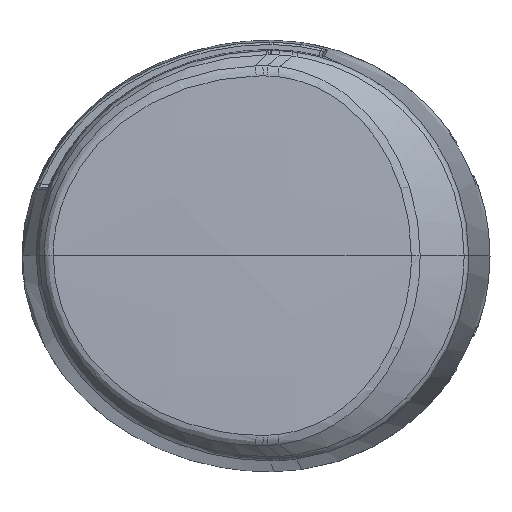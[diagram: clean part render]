
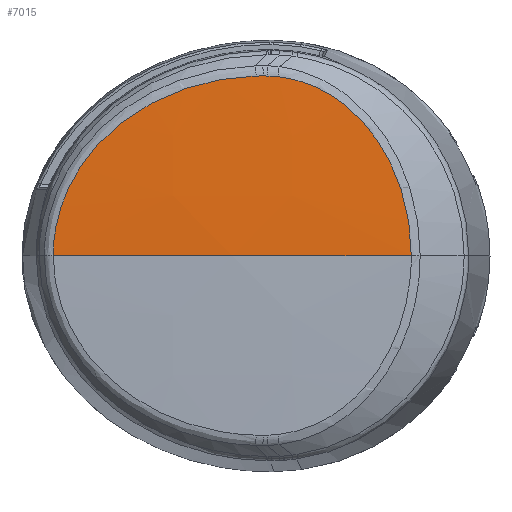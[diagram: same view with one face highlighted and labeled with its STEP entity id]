
A CAD part, top view. The second image highlights one B-rep face of the part: STEP entity #7015.
In plain terms, the highlighted free-form (B-spline) face has degree [3, 3] with [4, 4] control points.
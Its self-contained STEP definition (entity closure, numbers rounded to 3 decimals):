
#6664=CARTESIAN_POINT('Control Point',(14.244,0.,29.151)) ;
#6665=CARTESIAN_POINT('Control Point',(14.244,0.01,29.151)) ;
#6666=CARTESIAN_POINT('Control Point',(14.244,0.02,29.151)) ;
#6667=CARTESIAN_POINT('Control Point',(14.244,0.03,29.151)) ;
#6668=CARTESIAN_POINT('Control Point',(14.241,2.425,29.151)) ;
#6669=CARTESIAN_POINT('Control Point',(14.001,4.819,29.166)) ;
#6670=CARTESIAN_POINT('Control Point',(13.529,7.171,29.196)) ;
#6671=CARTESIAN_POINT('Control Point',(12.416,10.75,29.268)) ;
#6672=CARTESIAN_POINT('Control Point',(10.727,14.047,29.377)) ;
#6673=CARTESIAN_POINT('Control Point',(10.041,15.195,29.421)) ;
#6674=CARTESIAN_POINT('Control Point',(8.57,17.312,29.516)) ;
#6675=CARTESIAN_POINT('Control Point',(6.835,19.186,29.628)) ;
#6676=CARTESIAN_POINT('Control Point',(5.936,20.027,29.686)) ;
#6677=CARTESIAN_POINT('Control Point',(4.074,21.523,29.807)) ;
#6678=CARTESIAN_POINT('Control Point',(2.024,22.702,29.941)) ;
#6679=CARTESIAN_POINT('Control Point',(0.984,23.195,30.008)) ;
#6680=CARTESIAN_POINT('Control Point',(-0.548,23.773,30.109)) ;
#6681=CARTESIAN_POINT('Control Point',(-2.138,24.162,30.213)) ;
#6682=CARTESIAN_POINT('Control Point',(-2.62,24.262,30.244)) ;
#6683=CARTESIAN_POINT('Control Point',(-3.14,24.35,30.278)) ;
#6684=CARTESIAN_POINT('Control Point',(-3.664,24.417,30.313)) ;
#6685=CARTESIAN_POINT('Control Point',(-3.699,24.421,30.315)) ;
#6686=CARTESIAN_POINT('Control Point',(-3.766,24.429,30.319)) ;
#6687=CARTESIAN_POINT('Control Point',(-3.832,24.437,30.324)) ;
#6688=CARTESIAN_POINT('Control Point',(-3.881,24.443,30.327)) ;
#6689=CARTESIAN_POINT('Control Point',(-3.912,24.446,30.329)) ;
#6690=CARTESIAN_POINT('Control Point',(-3.944,24.45,30.331)) ;
#6691=CARTESIAN_POINT('Vertex',(-3.944,24.45,30.331)) ;
#6693=CARTESIAN_POINT('Vertex',(14.244,0.,29.151)) ;
#6805=CARTESIAN_POINT('Control Point',(-3.944,24.45,30.331)) ;
#6806=CARTESIAN_POINT('Control Point',(-3.946,24.45,30.331)) ;
#6807=CARTESIAN_POINT('Control Point',(-3.948,24.45,30.331)) ;
#6808=CARTESIAN_POINT('Control Point',(-3.949,24.45,30.332)) ;
#6809=CARTESIAN_POINT('Control Point',(-4.225,24.481,30.35)) ;
#6810=CARTESIAN_POINT('Control Point',(-4.502,24.505,30.368)) ;
#6811=CARTESIAN_POINT('Control Point',(-4.779,24.524,30.386)) ;
#6812=CARTESIAN_POINT('Control Point',(-5.06,24.538,30.404)) ;
#6813=CARTESIAN_POINT('Control Point',(-5.342,24.546,30.423)) ;
#6814=CARTESIAN_POINT('Control Point',(-5.346,24.546,30.423)) ;
#6815=CARTESIAN_POINT('Control Point',(-5.35,24.547,30.423)) ;
#6816=CARTESIAN_POINT('Control Point',(-5.355,24.547,30.424)) ;
#6817=CARTESIAN_POINT('Vertex',(-5.355,24.547,30.424)) ;
#6941=CARTESIAN_POINT('Control Point',(14.244,0.,29.151)) ;
#6942=CARTESIAN_POINT('Control Point',(-2.025,0.,30.76)) ;
#6943=CARTESIAN_POINT('Control Point',(-18.369,0.,31.713)) ;
#6944=CARTESIAN_POINT('Control Point',(-34.708,0.,32.004)) ;
#6945=CARTESIAN_POINT('Control Point',(14.244,8.171,29.151)) ;
#6946=CARTESIAN_POINT('Control Point',(-2.025,8.187,30.76)) ;
#6947=CARTESIAN_POINT('Control Point',(-18.369,8.195,31.713)) ;
#6948=CARTESIAN_POINT('Control Point',(-34.708,8.198,32.004)) ;
#6949=CARTESIAN_POINT('Control Point',(14.244,16.343,29.036)) ;
#6950=CARTESIAN_POINT('Control Point',(-2.025,16.373,30.645)) ;
#6951=CARTESIAN_POINT('Control Point',(-18.369,16.391,31.597)) ;
#6952=CARTESIAN_POINT('Control Point',(-34.708,16.396,31.888)) ;
#6953=CARTESIAN_POINT('Control Point',(14.244,24.511,28.805)) ;
#6954=CARTESIAN_POINT('Control Point',(-2.025,24.557,30.414)) ;
#6955=CARTESIAN_POINT('Control Point',(-18.369,24.583,31.366)) ;
#6956=CARTESIAN_POINT('Control Point',(-34.708,24.592,31.656)) ;
#6958=CARTESIAN_POINT('Control Point',(-6.011,24.558,30.467)) ;
#6959=CARTESIAN_POINT('Control Point',(-5.792,24.557,30.452)) ;
#6960=CARTESIAN_POINT('Control Point',(-5.574,24.553,30.438)) ;
#6961=CARTESIAN_POINT('Control Point',(-5.355,24.547,30.424)) ;
#6962=CARTESIAN_POINT('Vertex',(-6.011,24.558,30.467)) ;
#6966=CARTESIAN_POINT('Control Point',(-6.011,24.558,30.467)) ;
#6967=CARTESIAN_POINT('Control Point',(-6.332,24.56,30.487)) ;
#6968=CARTESIAN_POINT('Control Point',(-6.654,24.557,30.508)) ;
#6969=CARTESIAN_POINT('Control Point',(-6.974,24.548,30.529)) ;
#6970=CARTESIAN_POINT('Vertex',(-6.974,24.548,30.529)) ;
#6974=CARTESIAN_POINT('Control Point',(-6.974,24.548,30.529)) ;
#6975=CARTESIAN_POINT('Control Point',(-7.355,24.538,30.553)) ;
#6976=CARTESIAN_POINT('Control Point',(-7.735,24.523,30.578)) ;
#6977=CARTESIAN_POINT('Control Point',(-8.116,24.502,30.602)) ;
#6978=CARTESIAN_POINT('Control Point',(-9.446,24.41,30.686)) ;
#6979=CARTESIAN_POINT('Control Point',(-10.773,24.252,30.768)) ;
#6980=CARTESIAN_POINT('Control Point',(-11.718,24.104,30.826)) ;
#6981=CARTESIAN_POINT('Control Point',(-13.975,23.667,30.961)) ;
#6982=CARTESIAN_POINT('Control Point',(-16.197,23.029,31.089)) ;
#6983=CARTESIAN_POINT('Control Point',(-17.475,22.587,31.161)) ;
#6984=CARTESIAN_POINT('Control Point',(-20.078,21.526,31.304)) ;
#6985=CARTESIAN_POINT('Control Point',(-22.546,20.168,31.434)) ;
#6986=CARTESIAN_POINT('Control Point',(-23.781,19.385,31.497)) ;
#6987=CARTESIAN_POINT('Control Point',(-26.49,17.41,31.633)) ;
#6988=CARTESIAN_POINT('Control Point',(-28.858,15.048,31.745)) ;
#6989=CARTESIAN_POINT('Control Point',(-30.064,13.602,31.801)) ;
#6990=CARTESIAN_POINT('Control Point',(-31.992,10.774,31.887)) ;
#6991=CARTESIAN_POINT('Control Point',(-33.353,7.699,31.946)) ;
#6992=CARTESIAN_POINT('Control Point',(-33.845,6.266,31.967)) ;
#6993=CARTESIAN_POINT('Control Point',(-34.373,4.149,31.99)) ;
#6994=CARTESIAN_POINT('Control Point',(-34.629,2.007,32.)) ;
#6995=CARTESIAN_POINT('Control Point',(-34.682,1.336,32.003)) ;
#6996=CARTESIAN_POINT('Control Point',(-34.708,0.669,32.004)) ;
#6997=CARTESIAN_POINT('Control Point',(-34.708,0.,32.004)) ;
#6998=CARTESIAN_POINT('Vertex',(-34.708,0.,32.004)) ;
#7002=CARTESIAN_POINT('Control Point',(14.244,0.,29.151)) ;
#7003=CARTESIAN_POINT('Control Point',(-2.026,0.,30.761)) ;
#7004=CARTESIAN_POINT('Control Point',(-18.365,0.,31.713)) ;
#7005=CARTESIAN_POINT('Control Point',(-34.708,0.,32.004)) ;
#7008=ORIENTED_EDGE('',*,*,#6695,.F.) ;
#7009=ORIENTED_EDGE('',*,*,#6819,.F.) ;
#7010=ORIENTED_EDGE('',*,*,#6964,.F.) ;
#7011=ORIENTED_EDGE('',*,*,#6972,.F.) ;
#7012=ORIENTED_EDGE('',*,*,#7000,.F.) ;
#7013=ORIENTED_EDGE('',*,*,#7006,.F.) ;
#7015=ADVANCED_FACE('Body.COVER STBD',(#7014),#6940,.T.) ;
#6663=B_SPLINE_CURVE_WITH_KNOTS('',5,(#6664,#6665,#6666,#6667,#6668,#6669,#6670,#6671,#6672,#6673,#6674,#6675,#6676,#6677,#6678,#6679,#6680,#6681,#6682,#6683,#6684,#6685,#6686,#6687,#6688,#6689,#6690),.UNSPECIFIED.,.F.,.U.,(6,3,3,3,3,3,3,3,6),(54.399,54.488,75.754,87.816,99.118,109.885,114.496,114.826,115.124),.UNSPECIFIED.) ;
#6804=B_SPLINE_CURVE_WITH_KNOTS('',5,(#6805,#6806,#6807,#6808,#6809,#6810,#6811,#6812,#6813,#6814,#6815,#6816),.UNSPECIFIED.,.F.,.U.,(6,3,3,6),(48.937,48.953,51.52,51.561),.UNSPECIFIED.) ;
#6957=B_SPLINE_CURVE_WITH_KNOTS('',3,(#6958,#6959,#6960,#6961),.UNSPECIFIED.,.F.,.U.,(4,4),(0.,1.183),.UNSPECIFIED.) ;
#6965=B_SPLINE_CURVE_WITH_KNOTS('',3,(#6966,#6967,#6968,#6969),.UNSPECIFIED.,.F.,.U.,(4,4),(0.,1.74),.UNSPECIFIED.) ;
#6973=B_SPLINE_CURVE_WITH_KNOTS('',5,(#6974,#6975,#6976,#6977,#6978,#6979,#6980,#6981,#6982,#6983,#6984,#6985,#6986,#6987,#6988,#6989,#6990,#6991,#6992,#6993,#6994,#6995,#6996,#6997),.UNSPECIFIED.,.F.,.U.,(6,3,3,3,3,3,3,6),(1.738,5.168,13.724,25.709,38.597,55.292,69.197,75.485),.UNSPECIFIED.) ;
#7001=B_SPLINE_CURVE_WITH_KNOTS('',3,(#7002,#7003,#7004,#7005),.UNSPECIFIED.,.F.,.U.,(4,4),(0.,69.359),.UNSPECIFIED.) ;
#6940=B_SPLINE_SURFACE_WITH_KNOTS('',3,3,((#6941,#6942,#6943,#6944),(#6945,#6946,#6947,#6948),(#6949,#6950,#6951,#6952),(#6953,#6954,#6955,#6956)),.UNSPECIFIED.,.F.,.F.,.U.,(4,4),(4,4),(49.737,74.287),(893.37,942.41),.UNSPECIFIED.) ;
#6695=EDGE_CURVE('',#6692,#6694,#6663,.F.) ;
#6819=EDGE_CURVE('',#6818,#6692,#6804,.F.) ;
#6964=EDGE_CURVE('',#6963,#6818,#6957,.T.) ;
#6972=EDGE_CURVE('',#6971,#6963,#6965,.F.) ;
#7000=EDGE_CURVE('',#6999,#6971,#6973,.F.) ;
#7006=EDGE_CURVE('',#6694,#6999,#7001,.T.) ;
#7007=EDGE_LOOP('',(#7008,#7009,#7010,#7011,#7012,#7013)) ;
#7014=FACE_OUTER_BOUND('',#7007,.T.) ;
#6692=VERTEX_POINT('',#6691) ;
#6694=VERTEX_POINT('',#6693) ;
#6818=VERTEX_POINT('',#6817) ;
#6963=VERTEX_POINT('',#6962) ;
#6971=VERTEX_POINT('',#6970) ;
#6999=VERTEX_POINT('',#6998) ;
